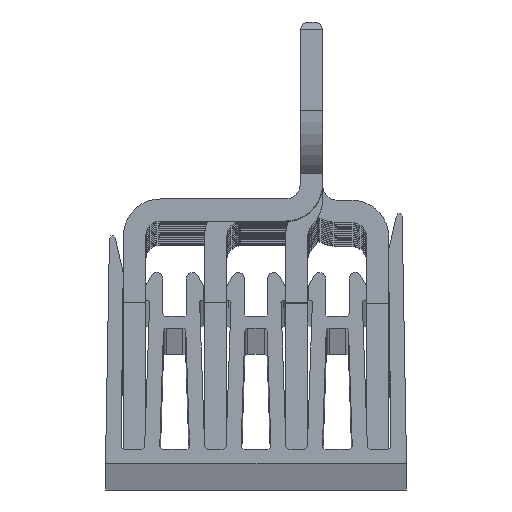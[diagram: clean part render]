
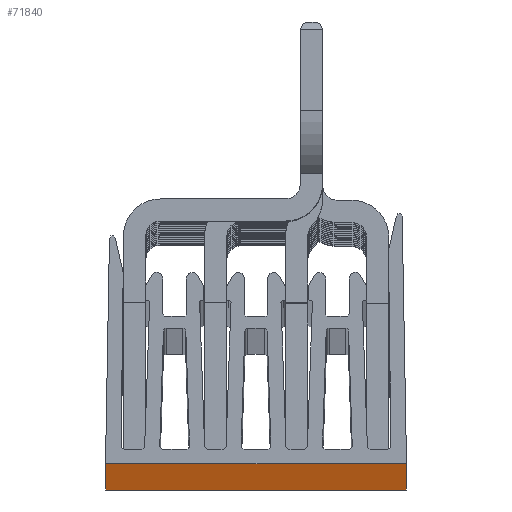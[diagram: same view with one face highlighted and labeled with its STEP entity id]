
A CAD part, top view. The second image highlights one B-rep face of the part: STEP entity #71840.
In plain terms, the highlighted planar face has unit normal (0, -1, 0).
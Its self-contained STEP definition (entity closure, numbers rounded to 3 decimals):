
#26732 = FACE_OUTER_BOUND ( 'NONE', #71835, .T. ) ;
#26764 = DIRECTION ( 'NONE',  ( 0., 0., -1. ) ) ;
#26766 = CARTESIAN_POINT ( 'NONE',  ( 7.45, 0., 508. ) ) ;
#26768 = LINE ( 'NONE', #26766, #26859 ) ;
#26774 = DIRECTION ( 'NONE',  ( 1., 0., 0. ) ) ;
#26776 = VECTOR ( 'NONE', #26774, 1000. ) ;
#26778 = CARTESIAN_POINT ( 'NONE',  ( -2.76, 0., -508. ) ) ;
#26780 = LINE ( 'NONE', #26778, #26776 ) ;
#26795 = DIRECTION ( 'NONE',  ( 0., 0., 1. ) ) ;
#26797 = DIRECTION ( 'NONE',  ( 0., 1., 0. ) ) ;
#26798 = CARTESIAN_POINT ( 'NONE',  ( -2.76, 0., 508. ) ) ;
#26799 = AXIS2_PLACEMENT_3D ( 'NONE', #26798, #26797, #26795 ) ;
#26800 = PLANE ( 'NONE',  #26799 ) ;
#26822 = CARTESIAN_POINT ( 'NONE',  ( -12.97, 0., -508. ) ) ;
#26823 = CARTESIAN_POINT ( 'NONE',  ( 7.45, 0., -508. ) ) ;
#26858 = CARTESIAN_POINT ( 'NONE',  ( 7.45, 0., 508. ) ) ;
#26859 = VECTOR ( 'NONE', #26764, 1000. ) ;
#27248 = CARTESIAN_POINT ( 'NONE',  ( -12.97, 0., 508. ) ) ;
#27250 = LINE ( 'NONE', #27248, #27362 ) ;
#27252 = DIRECTION ( 'NONE',  ( 1., 0., 0. ) ) ;
#27253 = VECTOR ( 'NONE', #27252, 1000. ) ;
#27255 = CARTESIAN_POINT ( 'NONE',  ( -2.76, 0., 508. ) ) ;
#27256 = LINE ( 'NONE', #27255, #27253 ) ;
#27359 = CARTESIAN_POINT ( 'NONE',  ( -12.97, 0., 508. ) ) ;
#27360 = DIRECTION ( 'NONE',  ( 0., 0., -1. ) ) ;
#27362 = VECTOR ( 'NONE', #27360, 1000. ) ;
#71835 = EDGE_LOOP ( 'NONE', ( #71858, #71850, #71951, #71910 ) ) ;
#71840 = ADVANCED_FACE ( 'NONE', ( #26732 ), #26800, .F. ) ;
#71847 = EDGE_CURVE ( 'NONE', #71863, #71860, #26780, .T. ) ;
#71850 = ORIENTED_EDGE ( 'NONE', *, *, #71853, .F. ) ;
#71853 = EDGE_CURVE ( 'NONE', #71854, #71860, #26768, .T. ) ;
#71854 = VERTEX_POINT ( 'NONE', #26858 ) ;
#71858 = ORIENTED_EDGE ( 'NONE', *, *, #71847, .T. ) ;
#71860 = VERTEX_POINT ( 'NONE', #26823 ) ;
#71863 = VERTEX_POINT ( 'NONE', #26822 ) ;
#71910 = ORIENTED_EDGE ( 'NONE', *, *, #71952, .T. ) ;
#71950 = EDGE_CURVE ( 'NONE', #71955, #71854, #27256, .T. ) ;
#71951 = ORIENTED_EDGE ( 'NONE', *, *, #71950, .F. ) ;
#71952 = EDGE_CURVE ( 'NONE', #71955, #71863, #27250, .T. ) ;
#71955 = VERTEX_POINT ( 'NONE', #27359 ) ;
